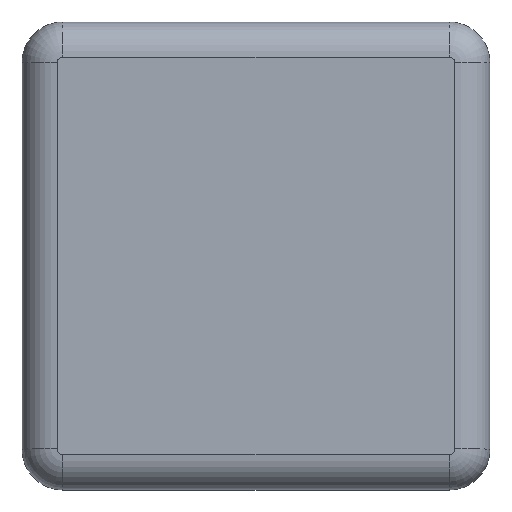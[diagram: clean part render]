
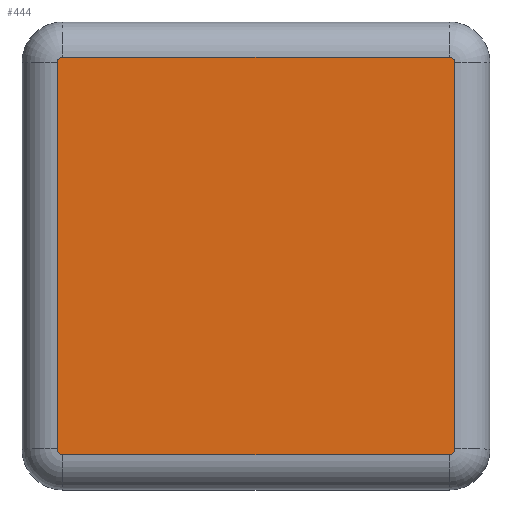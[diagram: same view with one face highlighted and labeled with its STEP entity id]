
A CAD part, top view. The second image highlights one B-rep face of the part: STEP entity #444.
In plain terms, the highlighted planar face has unit normal (0, 0, 1).
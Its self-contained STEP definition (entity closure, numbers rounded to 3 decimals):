
#7 = CARTESIAN_POINT ( 'NONE',  ( -17., -16.5, 0. ) ) ;
#12 = CARTESIAN_POINT ( 'NONE',  ( -16.5, -16.5, 0. ) ) ;
#16 = PLANE ( 'NONE',  #361 ) ;
#31 = DIRECTION ( 'NONE',  ( -1., 0., 0. ) ) ;
#42 = DIRECTION ( 'NONE',  ( 0., 1., 0. ) ) ;
#45 = LINE ( 'NONE', #312, #453 ) ;
#61 = CARTESIAN_POINT ( 'NONE',  ( -16.5, 17., 0. ) ) ;
#63 = CIRCLE ( 'NONE', #445, 0.5 ) ;
#74 = DIRECTION ( 'NONE',  ( 1., 0., 0. ) ) ;
#82 = CARTESIAN_POINT ( 'NONE',  ( -16.5, -17., 0. ) ) ;
#87 = EDGE_CURVE ( 'NONE', #102, #412, #63, .T. ) ;
#90 = VECTOR ( 'NONE', #175, 1000. ) ;
#92 = AXIS2_PLACEMENT_3D ( 'NONE', #373, #365, #502 ) ;
#98 = EDGE_CURVE ( 'NONE', #342, #332, #307, .T. ) ;
#99 = DIRECTION ( 'NONE',  ( 0., 0., -1. ) ) ;
#102 = VERTEX_POINT ( 'NONE', #82 ) ;
#103 = AXIS2_PLACEMENT_3D ( 'NONE', #371, #99, #548 ) ;
#115 = ORIENTED_EDGE ( 'NONE', *, *, #462, .F. ) ;
#116 = CARTESIAN_POINT ( 'NONE',  ( 17., -16.5, 0. ) ) ;
#119 = ORIENTED_EDGE ( 'NONE', *, *, #565, .F. ) ;
#130 = VECTOR ( 'NONE', #31, 1000. ) ;
#149 = LINE ( 'NONE', #495, #407 ) ;
#150 = FACE_OUTER_BOUND ( 'NONE', #564, .T. ) ;
#152 = DIRECTION ( 'NONE',  ( 1., 0., 0. ) ) ;
#175 = DIRECTION ( 'NONE',  ( 0., -1., 0. ) ) ;
#177 = CARTESIAN_POINT ( 'NONE',  ( -17., -16.5, 0. ) ) ;
#195 = DIRECTION ( 'NONE',  ( 1., 0., 0. ) ) ;
#215 = CARTESIAN_POINT ( 'NONE',  ( -16.5, 16.5, 0. ) ) ;
#230 = CARTESIAN_POINT ( 'NONE',  ( -17., 16.5, 0. ) ) ;
#233 = EDGE_CURVE ( 'NONE', #510, #557, #45, .T. ) ;
#237 = CARTESIAN_POINT ( 'NONE',  ( 16.5, -17., 0. ) ) ;
#251 = CARTESIAN_POINT ( 'NONE',  ( 17., 16.5, 0. ) ) ;
#269 = LINE ( 'NONE', #177, #90 ) ;
#283 = ORIENTED_EDGE ( 'NONE', *, *, #233, .T. ) ;
#286 = DIRECTION ( 'NONE',  ( 0., 0., 1. ) ) ;
#292 = EDGE_CURVE ( 'NONE', #308, #412, #269, .T. ) ;
#300 = DIRECTION ( 'NONE',  ( 0., 0., -1. ) ) ;
#306 = ORIENTED_EDGE ( 'NONE', *, *, #343, .T. ) ;
#307 = LINE ( 'NONE', #423, #130 ) ;
#308 = VERTEX_POINT ( 'NONE', #230 ) ;
#312 = CARTESIAN_POINT ( 'NONE',  ( 17., -16.5, 0. ) ) ;
#328 = AXIS2_PLACEMENT_3D ( 'NONE', #215, #300, #387 ) ;
#329 = CARTESIAN_POINT ( 'NONE',  ( 16.5, 17., 0. ) ) ;
#332 = VERTEX_POINT ( 'NONE', #61 ) ;
#342 = VERTEX_POINT ( 'NONE', #329 ) ;
#343 = EDGE_CURVE ( 'NONE', #102, #437, #149, .T. ) ;
#353 = CIRCLE ( 'NONE', #92, 0.5 ) ;
#361 = AXIS2_PLACEMENT_3D ( 'NONE', #12, #286, #195 ) ;
#365 = DIRECTION ( 'NONE',  ( 0., 0., -1. ) ) ;
#367 = ORIENTED_EDGE ( 'NONE', *, *, #292, .T. ) ;
#371 = CARTESIAN_POINT ( 'NONE',  ( 16.5, 16.5, 0. ) ) ;
#373 = CARTESIAN_POINT ( 'NONE',  ( 16.5, -16.5, 0. ) ) ;
#374 = EDGE_CURVE ( 'NONE', #510, #437, #353, .T. ) ;
#376 = ORIENTED_EDGE ( 'NONE', *, *, #98, .T. ) ;
#387 = DIRECTION ( 'NONE',  ( 1., 0., 0. ) ) ;
#407 = VECTOR ( 'NONE', #152, 1000. ) ;
#412 = VERTEX_POINT ( 'NONE', #7 ) ;
#423 = CARTESIAN_POINT ( 'NONE',  ( -16.5, 17., 0. ) ) ;
#424 = ORIENTED_EDGE ( 'NONE', *, *, #87, .F. ) ;
#429 = DIRECTION ( 'NONE',  ( 0., 0., -1. ) ) ;
#437 = VERTEX_POINT ( 'NONE', #237 ) ;
#444 = ADVANCED_FACE ( 'NONE', ( #150 ), #16, .T. ) ;
#445 = AXIS2_PLACEMENT_3D ( 'NONE', #474, #429, #74 ) ;
#453 = VECTOR ( 'NONE', #42, 1000. ) ;
#455 = CIRCLE ( 'NONE', #103, 0.5 ) ;
#462 = EDGE_CURVE ( 'NONE', #342, #557, #455, .T. ) ;
#474 = CARTESIAN_POINT ( 'NONE',  ( -16.5, -16.5, 0. ) ) ;
#495 = CARTESIAN_POINT ( 'NONE',  ( -16.5, -17., 0. ) ) ;
#502 = DIRECTION ( 'NONE',  ( 1., 0., 0. ) ) ;
#509 = CIRCLE ( 'NONE', #328, 0.5 ) ;
#510 = VERTEX_POINT ( 'NONE', #116 ) ;
#512 = ORIENTED_EDGE ( 'NONE', *, *, #374, .F. ) ;
#548 = DIRECTION ( 'NONE',  ( 1., 0., 0. ) ) ;
#557 = VERTEX_POINT ( 'NONE', #251 ) ;
#564 = EDGE_LOOP ( 'NONE', ( #115, #376, #119, #367, #424, #306, #512, #283 ) ) ;
#565 = EDGE_CURVE ( 'NONE', #308, #332, #509, .T. ) ;
